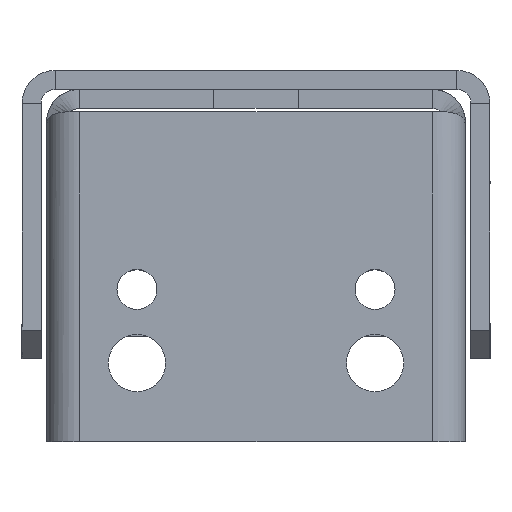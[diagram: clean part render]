
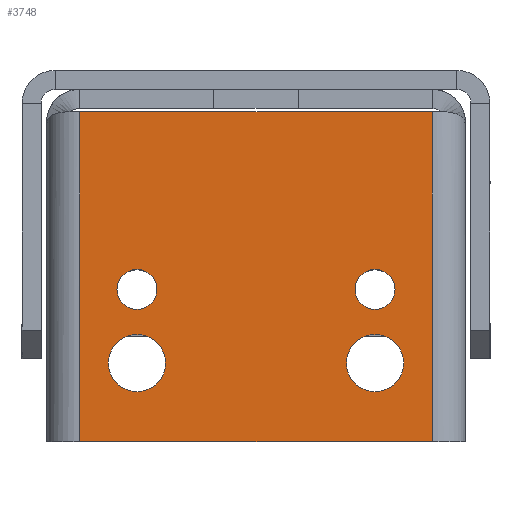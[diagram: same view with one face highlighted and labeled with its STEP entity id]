
A CAD part, left-side view. The second image highlights one B-rep face of the part: STEP entity #3748.
In plain terms, the highlighted planar face has unit normal (-1, 0, 0) as drawn and (0, 0, 1) by its records, which use the part's own axes.
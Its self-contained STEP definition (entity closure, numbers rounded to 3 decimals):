
#3748=ADVANCED_FACE('',(#7324,#7326,#7328,#7330,#7332),#7334,.F.);
#7324=FACE_BOUND('',#7325,.T.);
#7325=EDGE_LOOP('',(#9997,#9998,#9999,#10000));
#7326=FACE_BOUND('',#7327,.T.);
#7327=EDGE_LOOP('',(#10001));
#7328=FACE_BOUND('',#7329,.T.);
#7329=EDGE_LOOP('',(#10002));
#7330=FACE_BOUND('',#7331,.T.);
#7331=EDGE_LOOP('',(#10003));
#7332=FACE_BOUND('',#7333,.T.);
#7333=EDGE_LOOP('',(#10004));
#7334=PLANE('',#7335);
#7335=AXIS2_PLACEMENT_3D('',#7336,#7337,#7338);
#7336=CARTESIAN_POINT('',(18.5,22.,0.));
#7337=DIRECTION('',(0.,0.,-1.));
#7338=DIRECTION('',(-1.,0.,0.));
#9997=ORIENTED_EDGE('',*,*,#11239,.F.);
#9998=ORIENTED_EDGE('',*,*,#11240,.T.);
#9999=ORIENTED_EDGE('',*,*,#11241,.T.);
#10000=ORIENTED_EDGE('',*,*,#11242,.F.);
#10001=ORIENTED_EDGE('',*,*,#11189,.F.);
#10002=ORIENTED_EDGE('',*,*,#11191,.F.);
#10003=ORIENTED_EDGE('',*,*,#11193,.F.);
#10004=ORIENTED_EDGE('',*,*,#11195,.F.);
#11189=EDGE_CURVE('',#13081,#13081,#13082,.T.);
#11191=EDGE_CURVE('',#13085,#13085,#13086,.T.);
#11193=EDGE_CURVE('',#13089,#13089,#13090,.T.);
#11195=EDGE_CURVE('',#13093,#13093,#13094,.T.);
#11239=EDGE_CURVE('',#13173,#13174,#13175,.T.);
#11240=EDGE_CURVE('',#13173,#13176,#13177,.T.);
#11241=EDGE_CURVE('',#13176,#13178,#13179,.T.);
#11242=EDGE_CURVE('',#13174,#13178,#13180,.T.);
#13081=VERTEX_POINT('',#17569);
#13082=CIRCLE('',#17570,2.1);
#13085=VERTEX_POINT('',#17579);
#13086=CIRCLE('',#17580,3.);
#13089=VERTEX_POINT('',#17589);
#13090=CIRCLE('',#17590,2.1);
#13093=VERTEX_POINT('',#17599);
#13094=CIRCLE('',#17600,3.);
#13173=VERTEX_POINT('',#17769);
#13174=VERTEX_POINT('',#17770);
#13175=LINE('',#17771,#17772);
#13176=VERTEX_POINT('',#17774);
#13177=LINE('',#17775,#17776);
#13178=VERTEX_POINT('',#17778);
#13179=LINE('',#17779,#17780);
#13180=LINE('',#17782,#17783);
#17569=CARTESIAN_POINT('',(-0.4,-12.5,0.));
#17570=AXIS2_PLACEMENT_3D('',#17571,#17572,#17573);
#17571=CARTESIAN_POINT('',(-2.5,-12.5,0.));
#17572=DIRECTION('',(0.,0.,1.));
#17573=DIRECTION('',(-1.,0.,0.));
#17579=CARTESIAN_POINT('',(-7.25,-12.5,0.));
#17580=AXIS2_PLACEMENT_3D('',#17581,#17582,#17583);
#17581=CARTESIAN_POINT('',(-10.25,-12.5,0.));
#17582=DIRECTION('',(0.,0.,1.));
#17583=DIRECTION('',(-1.,0.,0.));
#17589=CARTESIAN_POINT('',(-0.4,12.5,0.));
#17590=AXIS2_PLACEMENT_3D('',#17591,#17592,#17593);
#17591=CARTESIAN_POINT('',(-2.5,12.5,0.));
#17592=DIRECTION('',(0.,0.,1.));
#17593=DIRECTION('',(-1.,0.,0.));
#17599=CARTESIAN_POINT('',(-7.25,12.5,0.));
#17600=AXIS2_PLACEMENT_3D('',#17601,#17602,#17603);
#17601=CARTESIAN_POINT('',(-10.25,12.5,0.));
#17602=DIRECTION('',(0.,0.,1.));
#17603=DIRECTION('',(-1.,0.,0.));
#17769=CARTESIAN_POINT('',(16.146,18.5,0.));
#17770=CARTESIAN_POINT('',(16.146,-18.5,0.));
#17771=CARTESIAN_POINT('',(16.146,18.5,0.));
#17772=VECTOR('',#17773,1.);
#17773=DIRECTION('',(0.,-1.,0.));
#17774=CARTESIAN_POINT('',(-18.5,18.5,0.));
#17775=CARTESIAN_POINT('',(16.146,18.5,0.));
#17776=VECTOR('',#17777,1.);
#17777=DIRECTION('',(-1.,0.,0.));
#17778=CARTESIAN_POINT('',(-18.5,-18.5,0.));
#17779=CARTESIAN_POINT('',(-18.5,18.5,0.));
#17780=VECTOR('',#17781,1.);
#17781=DIRECTION('',(0.,-1.,0.));
#17782=CARTESIAN_POINT('',(16.146,-18.5,0.));
#17783=VECTOR('',#17784,1.);
#17784=DIRECTION('',(-1.,0.,0.));
